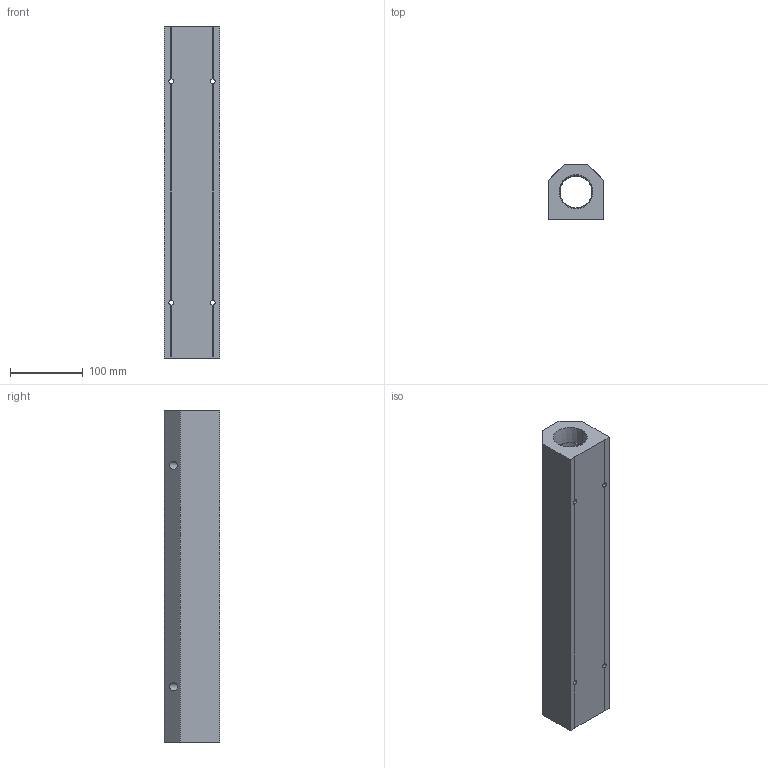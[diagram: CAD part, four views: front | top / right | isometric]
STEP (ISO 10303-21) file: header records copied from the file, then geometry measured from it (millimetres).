
FILE_DESCRIPTION (( 'STEP AP214' ), '1' );
FILE_NAME ('ALM8C-N4N24-457R.step', '2022-02-07T07:39:58', ( '' ), ( '' ), 'SwSTEP 2.0', 'SolidWorks 2020', '' );
FILE_SCHEMA (( 'AUTOMOTIVE_DESIGN' ));
Length unit declared in the file: millimetre
Products named in the file (1): ALM8C-N4N24-457R
Bounding box: 76.2 x 76.2 x 457 mm (x, y, z)
Volume: 1687347.8 mm3; surface area: 207066.8 mm2
Topology: 1 solids, 1 shells, 298 faces, 787 edges, 522 vertices
Faces by surface type: plane 211, bspline 49, cone 20, cylinder 18
Entity records: 15857 total; most frequent: CARTESIAN_POINT 5993, ORIENTED_EDGE 1574, DIRECTION 1209, EDGE_CURVE 787, VECTOR 605, LINE 605, VERTEX_POINT 522, EDGE_LOOP 355
